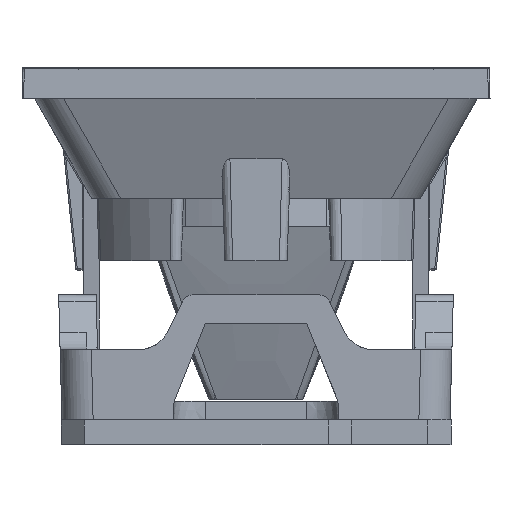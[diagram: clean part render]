
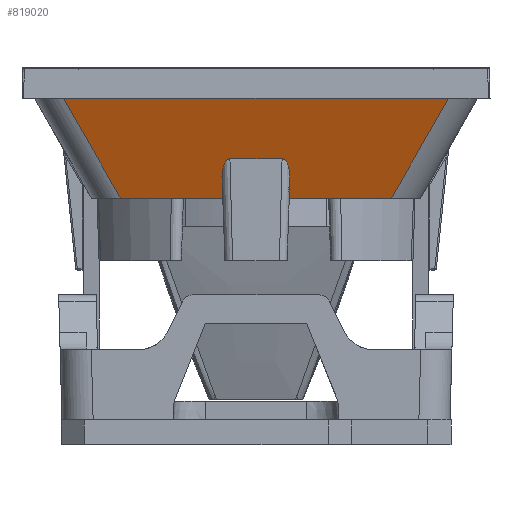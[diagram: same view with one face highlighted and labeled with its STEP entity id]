
A CAD part, left-side view. The second image highlights one B-rep face of the part: STEP entity #819020.
In plain terms, the highlighted planar face has unit normal (-0.921, 0, -0.389) as drawn and (0, -0.388, -0.921) by its records, which use the part's own axes.
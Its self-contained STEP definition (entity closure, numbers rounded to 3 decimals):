
#727530=CARTESIAN_POINT('',(1.671,-5.881,
-117.614));
#727540=VERTEX_POINT('',#727530);
#727570=CARTESIAN_POINT('',(-1.671,-5.881,
-117.614));
#727580=DIRECTION('',(1.,0.,0.));
#727590=VECTOR('',#727580,1.);
#727600=LINE('',#727570,#727590);
#727610=CARTESIAN_POINT('',(-1.671,-5.881,
-117.614));
#727620=VERTEX_POINT('',#727610);
#727630=EDGE_CURVE('',#727620,#727540,#727600,.T.);
#729800=CARTESIAN_POINT('',(1.834,-8.4,-116.552));
#729810=VERTEX_POINT('',#729800);
#729840=CARTESIAN_POINT('',(1.636,-7.202,
-117.057));
#729850=DIRECTION('',(0.,0.388,0.921));
#729860=DIRECTION('',(-0.028,-0.921,
0.388));
#729870=AXIS2_PLACEMENT_3D('',#729840,#729850,#729860);
#729880=ELLIPSE('',#729870,1.434,0.545);
#729890=EDGE_CURVE('',#729810,#727540,#729880,.T.);
#730520=CARTESIAN_POINT('',(-1.636,-7.202,
-117.057));
#730530=DIRECTION('',(0.,0.388,0.921));
#730540=DIRECTION('',(0.028,-0.921,
0.388));
#730550=AXIS2_PLACEMENT_3D('',#730520,#730530,#730540);
#730560=ELLIPSE('',#730550,1.434,0.545);
#730570=CARTESIAN_POINT('',(-1.834,-8.4,-116.552));
#730580=VERTEX_POINT('',#730570);
#730590=EDGE_CURVE('',#727620,#730580,#730560,.T.);
#733020=CARTESIAN_POINT('',(0.,-8.4,-116.552));
#733030=DIRECTION('',(-1.,0.,0.));
#733040=VECTOR('',#733030,1.);
#733050=LINE('',#733020,#733040);
#733060=CARTESIAN_POINT('',(8.676,-8.4,-116.552));
#733070=VERTEX_POINT('',#733060);
#733080=EDGE_CURVE('',#733070,#729810,#733050,.T.);
#733130=CARTESIAN_POINT('',(0.,-8.4,-116.552));
#733140=DIRECTION('',(-1.,0.,0.));
#733150=VECTOR('',#733140,1.);
#733160=LINE('',#733130,#733150);
#733170=CARTESIAN_POINT('',(-8.676,-8.4,-116.552));
#733180=VERTEX_POINT('',#733170);
#733190=EDGE_CURVE('',#730580,#733180,#733160,.T.);
#807520=CARTESIAN_POINT('',(-12.339,-2.,-119.25));
#807530=VERTEX_POINT('',#807520);
#807580=CARTESIAN_POINT('',(-13.039,-0.777,
-119.766));
#807590=DIRECTION('',(0.467,-0.815,
0.344));
#807600=VECTOR('',#807590,1.);
#807610=LINE('',#807580,#807600);
#807620=EDGE_CURVE('',#807530,#733180,#807610,.T.);
#818670=CARTESIAN_POINT('',(12.339,-2.,-119.25));
#818680=VERTEX_POINT('',#818670);
#818710=CARTESIAN_POINT('',(13.039,-0.777,
-119.766));
#818720=DIRECTION('',(0.467,0.815,
-0.344));
#818730=VECTOR('',#818720,1.);
#818740=LINE('',#818710,#818730);
#818750=EDGE_CURVE('',#733070,#818680,#818740,.T.);
#818820=CARTESIAN_POINT('',(-15.,-8.4,-116.552));
#818830=DIRECTION('',(-0.,0.388,0.921));
#818840=DIRECTION('',(0.,-0.921,0.388));
#818850=AXIS2_PLACEMENT_3D('',#818820,#818830,#818840);
#818860=PLANE('',#818850);
#818870=ORIENTED_EDGE('',*,*,#733190,.T.);
#818880=ORIENTED_EDGE('',*,*,#730590,.T.);
#818890=ORIENTED_EDGE('',*,*,#727630,.F.);
#818900=ORIENTED_EDGE('',*,*,#729890,.T.);
#818910=ORIENTED_EDGE('',*,*,#733080,.T.);
#818920=ORIENTED_EDGE('',*,*,#818750,.F.);
#818930=CARTESIAN_POINT('',(0.,-2.,-119.25));
#818940=DIRECTION('',(-1.,0.,0.));
#818950=VECTOR('',#818940,1.);
#818960=LINE('',#818930,#818950);
#818970=EDGE_CURVE('',#818680,#807530,#818960,.T.);
#818980=ORIENTED_EDGE('',*,*,#818970,.F.);
#818990=ORIENTED_EDGE('',*,*,#807620,.F.);
#819000=EDGE_LOOP('',(#818990,#818980,#818920,#818910,#818900,#818890,
#818880,#818870));
#819010=FACE_OUTER_BOUND('',#819000,.T.);
#819020=ADVANCED_FACE('',(#819010),#818860,.F.);
